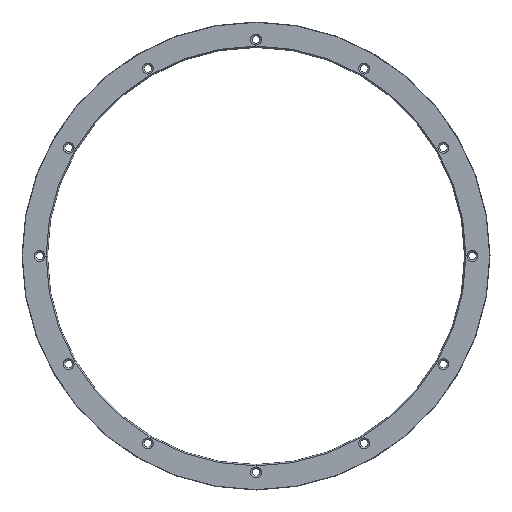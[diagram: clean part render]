
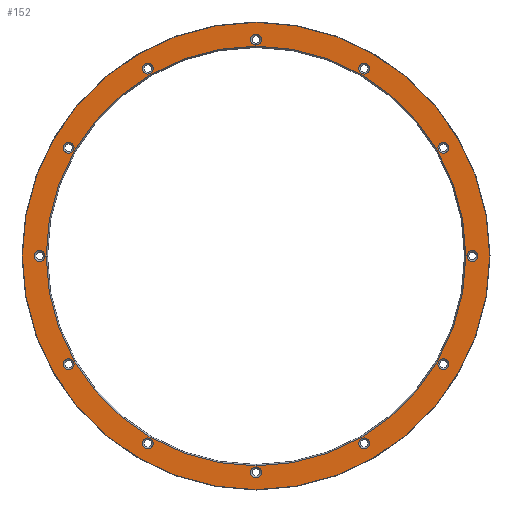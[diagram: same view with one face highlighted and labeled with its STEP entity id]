
A CAD part, front view. The second image highlights one B-rep face of the part: STEP entity #152.
In plain terms, the highlighted planar face has unit normal (0, -1, 0).
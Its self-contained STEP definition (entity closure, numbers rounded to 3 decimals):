
#152=ADVANCED_FACE('',(#548,#550,#552,#554,#556,#558,#560,#562,#564,#566,#568,#570,
#572,#574),#576,.F.);
#548=FACE_BOUND('',#549,.T.);
#549=EDGE_LOOP('',(#915));
#550=FACE_BOUND('',#551,.T.);
#551=EDGE_LOOP('',(#916));
#552=FACE_BOUND('',#553,.T.);
#553=EDGE_LOOP('',(#917));
#554=FACE_BOUND('',#555,.T.);
#555=EDGE_LOOP('',(#918));
#556=FACE_BOUND('',#557,.T.);
#557=EDGE_LOOP('',(#919));
#558=FACE_BOUND('',#559,.T.);
#559=EDGE_LOOP('',(#920));
#560=FACE_BOUND('',#561,.T.);
#561=EDGE_LOOP('',(#921));
#562=FACE_BOUND('',#563,.T.);
#563=EDGE_LOOP('',(#922));
#564=FACE_BOUND('',#565,.T.);
#565=EDGE_LOOP('',(#923));
#566=FACE_BOUND('',#567,.T.);
#567=EDGE_LOOP('',(#924));
#568=FACE_BOUND('',#569,.T.);
#569=EDGE_LOOP('',(#925));
#570=FACE_BOUND('',#571,.T.);
#571=EDGE_LOOP('',(#926));
#572=FACE_BOUND('',#573,.T.);
#573=EDGE_LOOP('',(#927));
#574=FACE_BOUND('',#575,.T.);
#575=EDGE_LOOP('',(#928));
#576=PLANE('',#577);
#577=AXIS2_PLACEMENT_3D('',#578,#579,#580);
#578=CARTESIAN_POINT('',(0.,0.,0.));
#579=DIRECTION('',(0.,1.,0.));
#580=DIRECTION('',(-1.,0.,0.));
#915=ORIENTED_EDGE('',*,*,#1027,.F.);
#916=ORIENTED_EDGE('',*,*,#1028,.T.);
#917=ORIENTED_EDGE('',*,*,#1029,.T.);
#918=ORIENTED_EDGE('',*,*,#1030,.T.);
#919=ORIENTED_EDGE('',*,*,#1031,.T.);
#920=ORIENTED_EDGE('',*,*,#1032,.T.);
#921=ORIENTED_EDGE('',*,*,#1033,.T.);
#922=ORIENTED_EDGE('',*,*,#1034,.T.);
#923=ORIENTED_EDGE('',*,*,#1035,.T.);
#924=ORIENTED_EDGE('',*,*,#1036,.T.);
#925=ORIENTED_EDGE('',*,*,#1037,.T.);
#926=ORIENTED_EDGE('',*,*,#1038,.T.);
#927=ORIENTED_EDGE('',*,*,#1039,.T.);
#928=ORIENTED_EDGE('',*,*,#1040,.T.);
#1027=EDGE_CURVE('',#1105,#1105,#1106,.T.);
#1028=EDGE_CURVE('',#1107,#1107,#1108,.T.);
#1029=EDGE_CURVE('',#1109,#1109,#1110,.F.);
#1030=EDGE_CURVE('',#1111,#1111,#1112,.F.);
#1031=EDGE_CURVE('',#1113,#1113,#1114,.F.);
#1032=EDGE_CURVE('',#1115,#1115,#1116,.F.);
#1033=EDGE_CURVE('',#1117,#1117,#1118,.F.);
#1034=EDGE_CURVE('',#1119,#1119,#1120,.F.);
#1035=EDGE_CURVE('',#1121,#1121,#1122,.F.);
#1036=EDGE_CURVE('',#1123,#1123,#1124,.F.);
#1037=EDGE_CURVE('',#1125,#1125,#1126,.F.);
#1038=EDGE_CURVE('',#1127,#1127,#1128,.F.);
#1039=EDGE_CURVE('',#1129,#1129,#1130,.F.);
#1040=EDGE_CURVE('',#1131,#1131,#1132,.F.);
#1105=VERTEX_POINT('',#1283);
#1106=CIRCLE('',#1284,149.05);
#1107=VERTEX_POINT('',#1288);
#1108=CIRCLE('',#1289,133.866);
#1109=VERTEX_POINT('',#1293);
#1110=CIRCLE('',#1294,3.459);
#1111=VERTEX_POINT('',#1298);
#1112=CIRCLE('',#1299,3.459);
#1113=VERTEX_POINT('',#1303);
#1114=CIRCLE('',#1304,3.459);
#1115=VERTEX_POINT('',#1308);
#1116=CIRCLE('',#1309,3.459);
#1117=VERTEX_POINT('',#1313);
#1118=CIRCLE('',#1314,3.459);
#1119=VERTEX_POINT('',#1318);
#1120=CIRCLE('',#1319,3.459);
#1121=VERTEX_POINT('',#1323);
#1122=CIRCLE('',#1324,3.459);
#1123=VERTEX_POINT('',#1328);
#1124=CIRCLE('',#1329,3.459);
#1125=VERTEX_POINT('',#1333);
#1126=CIRCLE('',#1334,3.459);
#1127=VERTEX_POINT('',#1338);
#1128=CIRCLE('',#1339,3.459);
#1129=VERTEX_POINT('',#1343);
#1130=CIRCLE('',#1344,3.459);
#1131=VERTEX_POINT('',#1348);
#1132=CIRCLE('',#1349,3.459);
#1283=CARTESIAN_POINT('',(-149.05,0.,0.));
#1284=AXIS2_PLACEMENT_3D('',#1285,#1286,#1287);
#1285=CARTESIAN_POINT('',(0.,0.,0.));
#1286=DIRECTION('',(0.,1.,0.));
#1287=DIRECTION('',(-1.,0.,0.));
#1288=CARTESIAN_POINT('',(-133.866,0.,0.));
#1289=AXIS2_PLACEMENT_3D('',#1290,#1291,#1292);
#1290=CARTESIAN_POINT('',(0.,0.,0.));
#1291=DIRECTION('',(0.,1.,0.));
#1292=DIRECTION('',(-1.,0.,0.));
#1293=CARTESIAN_POINT('',(121.241,0.,-66.005));
#1294=AXIS2_PLACEMENT_3D('',#1295,#1296,#1297);
#1295=CARTESIAN_POINT('',(119.512,0.,-69.));
#1296=DIRECTION('',(0.,-1.,0.));
#1297=DIRECTION('',(0.5,0.,0.866));
#1298=CARTESIAN_POINT('',(117.782,0.,71.995));
#1299=AXIS2_PLACEMENT_3D('',#1300,#1301,#1302);
#1300=CARTESIAN_POINT('',(119.512,0.,69.));
#1301=DIRECTION('',(0.,-1.,0.));
#1302=DIRECTION('',(-0.5,0.,0.866));
#1303=CARTESIAN_POINT('',(-3.459,0.,138.));
#1304=AXIS2_PLACEMENT_3D('',#1305,#1306,#1307);
#1305=CARTESIAN_POINT('',(0.,0.,138.));
#1306=DIRECTION('',(0.,-1.,0.));
#1307=DIRECTION('',(-1.,0.,0.));
#1308=CARTESIAN_POINT('',(-121.241,0.,66.005));
#1309=AXIS2_PLACEMENT_3D('',#1310,#1311,#1312);
#1310=CARTESIAN_POINT('',(-119.512,0.,69.));
#1311=DIRECTION('',(0.,-1.,0.));
#1312=DIRECTION('',(-0.5,0.,-0.866));
#1313=CARTESIAN_POINT('',(-117.782,0.,-71.995));
#1314=AXIS2_PLACEMENT_3D('',#1315,#1316,#1317);
#1315=CARTESIAN_POINT('',(-119.512,0.,-69.));
#1316=DIRECTION('',(0.,-1.,0.));
#1317=DIRECTION('',(0.5,0.,-0.866));
#1318=CARTESIAN_POINT('',(3.459,0.,-138.));
#1319=AXIS2_PLACEMENT_3D('',#1320,#1321,#1322);
#1320=CARTESIAN_POINT('',(0.,0.,-138.));
#1321=DIRECTION('',(0.,-1.,0.));
#1322=DIRECTION('',(1.,0.,0.));
#1323=CARTESIAN_POINT('',(-66.005,0.,-121.241));
#1324=AXIS2_PLACEMENT_3D('',#1325,#1326,#1327);
#1325=CARTESIAN_POINT('',(-69.,0.,-119.512));
#1326=DIRECTION('',(0.,-1.,0.));
#1327=DIRECTION('',(0.866,0.,-0.5));
#1328=CARTESIAN_POINT('',(-138.,0.,-3.459));
#1329=AXIS2_PLACEMENT_3D('',#1330,#1331,#1332);
#1330=CARTESIAN_POINT('',(-138.,0.,0.));
#1331=DIRECTION('',(0.,-1.,0.));
#1332=DIRECTION('',(0.,0.,-1.));
#1333=CARTESIAN_POINT('',(-71.995,0.,117.782));
#1334=AXIS2_PLACEMENT_3D('',#1335,#1336,#1337);
#1335=CARTESIAN_POINT('',(-69.,0.,119.512));
#1336=DIRECTION('',(0.,-1.,0.));
#1337=DIRECTION('',(-0.866,0.,-0.5));
#1338=CARTESIAN_POINT('',(66.005,0.,121.241));
#1339=AXIS2_PLACEMENT_3D('',#1340,#1341,#1342);
#1340=CARTESIAN_POINT('',(69.,0.,119.512));
#1341=DIRECTION('',(0.,-1.,0.));
#1342=DIRECTION('',(-0.866,0.,0.5));
#1343=CARTESIAN_POINT('',(138.,0.,3.459));
#1344=AXIS2_PLACEMENT_3D('',#1345,#1346,#1347);
#1345=CARTESIAN_POINT('',(138.,0.,0.));
#1346=DIRECTION('',(0.,-1.,0.));
#1347=DIRECTION('',(0.,0.,1.));
#1348=CARTESIAN_POINT('',(71.995,0.,-117.782));
#1349=AXIS2_PLACEMENT_3D('',#1350,#1351,#1352);
#1350=CARTESIAN_POINT('',(69.,0.,-119.512));
#1351=DIRECTION('',(0.,-1.,0.));
#1352=DIRECTION('',(0.866,0.,0.5));
